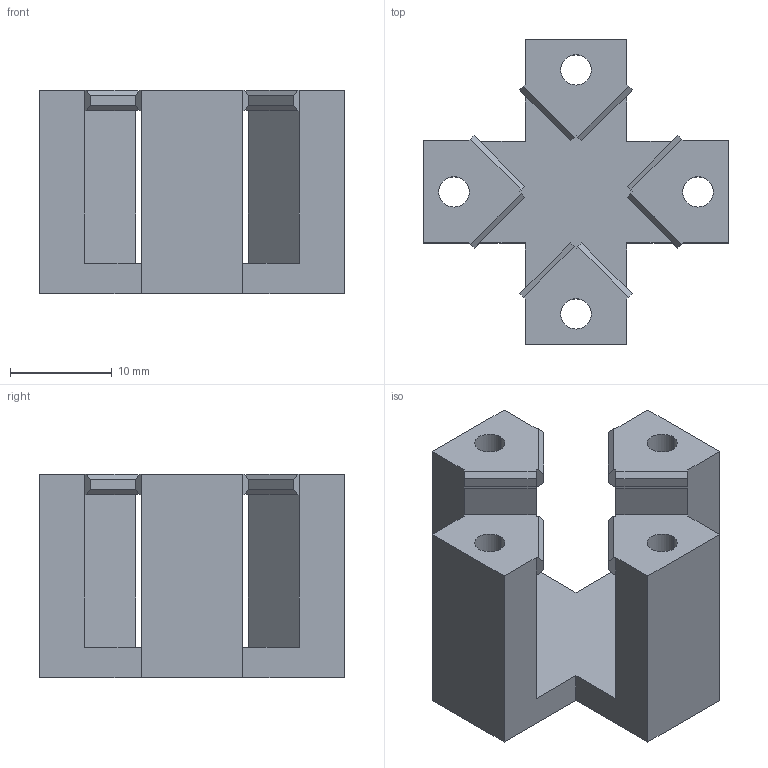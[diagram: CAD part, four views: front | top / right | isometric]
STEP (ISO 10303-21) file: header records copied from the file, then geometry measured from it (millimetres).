
FILE_DESCRIPTION (( 'STEP AP214' ), '1' );
FILE_NAME ('Clip.STEP', '2019-04-02T17:39:25', ( 'Charles' ), ( '' ), 'SwSTEP 2.0', 'SolidWorks 2016', '' );
FILE_SCHEMA (( 'AUTOMOTIVE_DESIGN' ));
Length unit declared in the file: millimetre
Products named in the file (1): Clip
Bounding box: 30 x 30 x 20 mm (x, y, z)
Volume: 5731.2 mm3; surface area: 4376 mm2
Topology: 1 solids, 1 shells, 82 faces, 220 edges, 140 vertices
Faces by surface type: plane 74, cylinder 8
Entity records: 2550 total; most frequent: CARTESIAN_POINT 443, ORIENTED_EDGE 440, DIRECTION 402, EDGE_CURVE 220, VECTOR 204, LINE 204, VERTEX_POINT 140, AXIS2_PLACEMENT_3D 99
